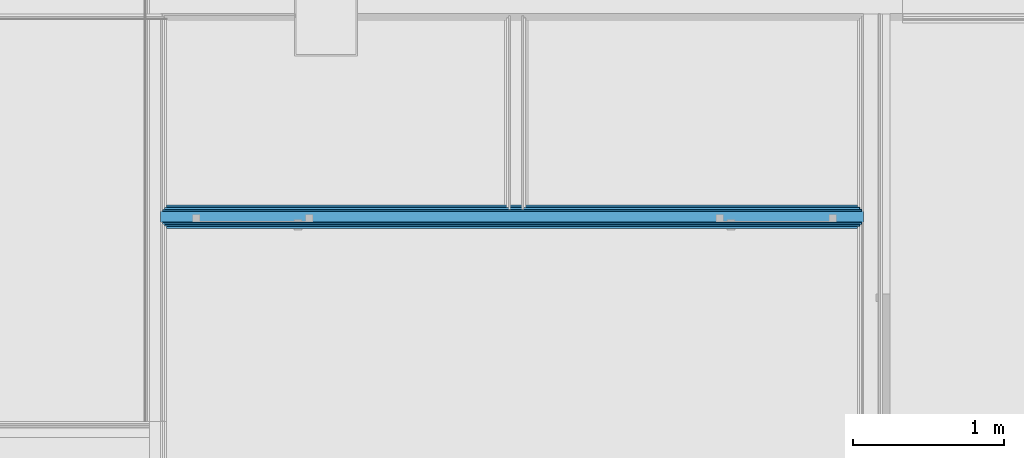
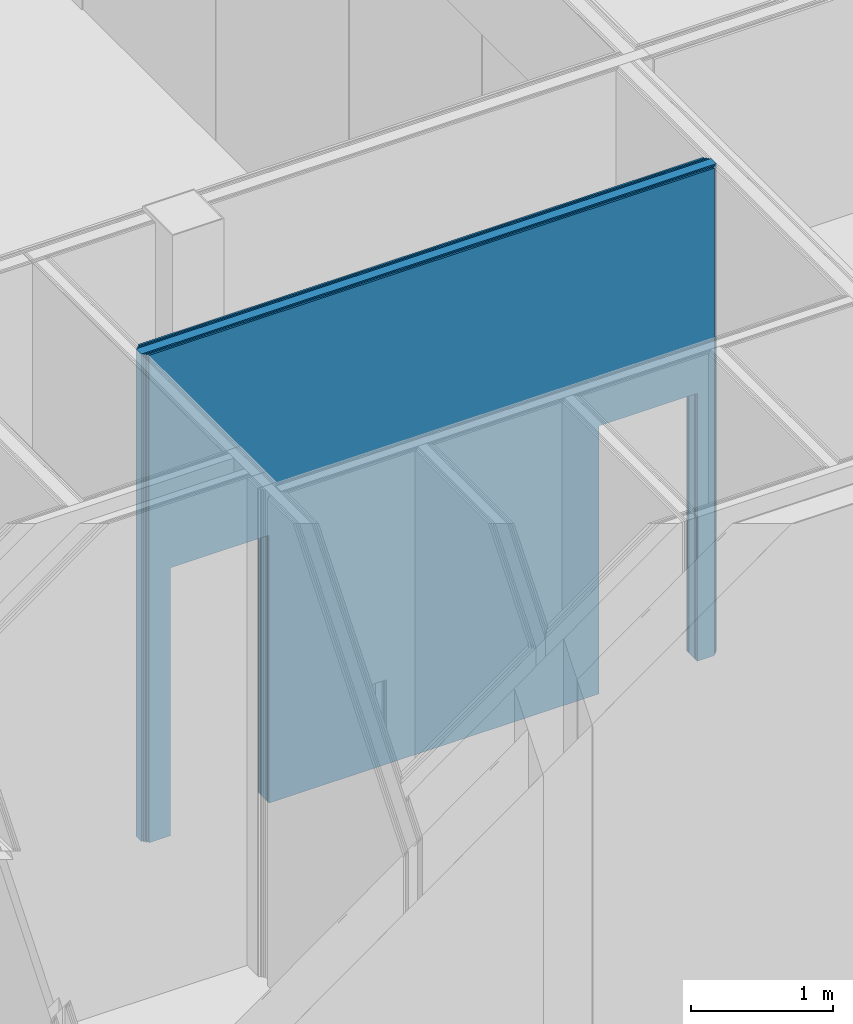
# One storey, part 121 of 260: 7 building element parts, 2 openings, 1 element without a shape of its own.
"""IFC2X3 building model written with IfcOpenShell, lengths in millimetres."""

from ifc_helpers import new_model, entity, si_unit, converted_unit, derived_unit, money_unit, direction, frame, origin_with_axes, place, context, subcontext, project, spatial, faceted_brep, material, type_object, element, aggregate, save


model = new_model("IFC2X3")

# Units and contexts
model_context = context("Model", 3, precision=0.01, world=origin_with_axes(), true_north=direction((0.0, 1.0)))
body_context = subcontext(model_context, "Body", "Model", "MODEL_VIEW")
ifc_project = project(units=[si_unit("LENGTHUNIT", "METRE", prefix="MILLI"), si_unit("AREAUNIT", "SQUARE_METRE"), si_unit("VOLUMEUNIT", "CUBIC_METRE"), converted_unit("PLANEANGLEUNIT", "DEGREE", entity("IfcPlaneAngleMeasure", 0.0174532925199), si_unit("PLANEANGLEUNIT", "RADIAN"), dimensions=[0, 0, 0, 0, 0, 0, 0]), money_unit("EUR"), converted_unit("TIMEUNIT", "Year", entity("IfcTimeMeasure", 31556926.0), si_unit("TIMEUNIT", "SECOND"), dimensions=[0, 0, 1, 0, 0, 0, 0]), si_unit("MASSUNIT", "GRAM", prefix="KILO"), si_unit("THERMODYNAMICTEMPERATUREUNIT", "DEGREE_CELSIUS"), si_unit("LUMINOUSINTENSITYUNIT", "LUMEN"), si_unit("ENERGYUNIT", "JOULE", prefix="MEGA"), derived_unit("THERMALCONDUCTANCEUNIT", [(si_unit("POWERUNIT", "WATT"), 1), (si_unit("LENGTHUNIT", "METRE"), -1), (si_unit("THERMODYNAMICTEMPERATUREUNIT", "KELVIN"), -1)]), derived_unit("SPECIFICHEATCAPACITYUNIT", [(si_unit("ENERGYUNIT", "JOULE"), 1), (si_unit("MASSUNIT", "GRAM", prefix="KILO"), -1), (si_unit("THERMODYNAMICTEMPERATUREUNIT", "KELVIN"), -1)]), derived_unit("MASSDENSITYUNIT", [(si_unit("MASSUNIT", "GRAM", prefix="KILO"), 1), (si_unit("VOLUMEUNIT", "CUBIC_METRE"), -1)])], contexts=[model_context])

# Site, building, storey
site_placement = place(None, origin_with_axes())
site = spatial("IfcSite", under=ifc_project, at=site_placement, Name="Kolde pst 67a", CompositionType="ELEMENT")
building_placement = place(site_placement, origin_with_axes())
building = spatial("IfcBuilding", under=site, at=building_placement, Name="Riigigümnaasium", CompositionType="ELEMENT")
storey_placement = place(building_placement, origin_with_axes())
storey = spatial("IfcBuildingStorey", under=building, at=storey_placement, Name="1. korrus", CompositionType="ELEMENT", Elevation=0.0)

# Wall, openings, building element parts
wall_type = type_object("IfcWallType", Name="SS-MK-7,5/1_plaaditud 155", PredefinedType="NOTDEFINED")
wall_placement = place(storey_placement, frame((73479.99953, 14900.0071245, 0.0), z_axis=(0.0, 0.0, 1.0), x_axis=(-1.0, 4.76274496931e-07, 0.0)))
wall = element("IfcWall", 1, at=wall_placement, inside=storey, type_object=wall_type, Name="Sisesein")
opening_1_placement = place(wall_placement, frame((4016.61777221, 0.0, 0.0), z_axis=(0.0, 0.0, 1.0), x_axis=(1.0, 0.0, 0.0)))
element("IfcOpeningElement", 2, at=opening_1_placement, cuts=wall, Name="Siseuks", context=body_context, shape_type="Brep", body=[
    faceted_brep([(400.0, -155.0, 2300.0), (400.0, -155.0, 0.0), (400.0, 310.0, 0.0), (400.0, 310.0, 2300.0), (-400.0, -155.0, 2300.0), (-400.0, -155.0, 0.0), (-400.0, 310.0, 0.0), (-400.0, 310.0, 2300.0)], [[[0, 1, 2, 3]], [[0, 4, 5, 1]], [[1, 5, 6, 2]], [[3, 2, 6, 7]], [[4, 0, 3, 7]], [[5, 4, 7, 6]]]),
])
opening_2_placement = place(wall_placement, frame((540.0, 0.0, 0.0), z_axis=(0.0, 0.0, 1.0), x_axis=(1.0, 0.0, 0.0)))
element("IfcOpeningElement", 3, at=opening_2_placement, cuts=wall, Name="Siseuks", context=body_context, shape_type="Brep", body=[
    faceted_brep([(-400.0, 310.0, 2300.0), (-400.0, 310.0, 0.0), (-400.0, -155.0, 0.0), (-400.0, -155.0, 2300.0), (400.0, 310.0, 2300.0), (400.0, 310.0, 0.0), (400.0, -155.0, 0.0), (400.0, -155.0, 2300.0)], [[[0, 1, 2, 3]], [[0, 4, 5, 1]], [[1, 5, 6, 2]], [[3, 2, 6, 7]], [[4, 0, 3, 7]], [[5, 4, 7, 6]]]),
])
ifc_material_1 = material(Name="_VIIMISTLUSKIHT - viimistlus vastavalt SA osale")
building_element_part_1_placement = place(wall_placement, origin_with_axes())
building_element_part_1 = element("IfcBuildingElementPart", 4, at=building_element_part_1_placement, material=ifc_material_1, Name="_VIIMISTLUSKIHT - viimistlus vastavalt SA osale", context=body_context, shape_type="Brep", body=[
    faceted_brep([(940.0, 139.999998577, 2300.0), (940.0, 140.0, 0.0), (3616.61777221, 140.0, 0.0), (3616.61777221, 139.999998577, 2300.0), (4416.61777221, 139.999998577, 2300.0), (4416.61777221, 140.0, 0.0), (4589.99998587, 140.0, 0.0), (4589.99998587, 139.999999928, 4185.0), (-6.01555427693e-06, 139.999998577, 4185.0), (-6.66784245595e-05, 140.0, 0.0), (140.0, 140.0, 0.0), (140.0, 139.999998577, 2300.0), (940.0, 155.000002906, 2300.0), (940.0, 155.0, 0.0), (3616.61777221, 155.0, 0.0), (3616.61777221, 155.000002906, 2300.0), (4416.61777221, 155.000002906, 2300.0), (4416.61777221, 155.0, 0.0), (4589.99997872, 155.0, 0.0), (4589.99997872, 155.000000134, 4185.0), (-7.38225480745e-05, 155.000002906, 4185.0), (-7.38225338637e-05, 155.0, 0.0), (140.0, 155.0, 0.0), (140.0, 155.000002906, 2300.0)], [[[0, 1, 2, 3, 4, 5, 6, 7, 8, 9, 10, 11]], [[1, 0, 12, 13]], [[1, 13, 14, 2]], [[2, 14, 15, 3]], [[3, 15, 16, 4]], [[4, 16, 17, 5]], [[17, 18, 6, 5]], [[6, 18, 19, 7]], [[7, 19, 20, 8]], [[21, 9, 8, 20]], [[22, 10, 9, 21]], [[11, 10, 22, 23]], [[0, 11, 23, 12]], [[23, 22, 21, 20, 19, 18, 17, 16, 15, 14, 13, 12]]]),
])
ifc_material_2 = material(Name="_PLAATMATERJAL - kipsplaat veekindel")
building_element_part_2_placement = place(wall_placement, origin_with_axes())
building_element_part_2 = element("IfcBuildingElementPart", 5, at=building_element_part_2_placement, material=ifc_material_2, Name="_PLAATMATERJAL - kipsplaat veekindel", context=body_context, shape_type="Brep", body=[
    faceted_brep([(940.0, 127.5, 2300.0), (940.0, 127.5, 0.0), (3616.61777221, 127.5, 0.0), (3616.61777221, 127.5, 2300.0), (4416.61777221, 127.5, 2300.0), (4416.61777221, 127.5, 0.0), (4604.99999182, 127.5, 0.0), (4604.99999182, 127.5, 4185.0), (-15.000060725, 127.5, 4185.0), (-15.000060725, 127.5, 0.0), (140.0, 127.5, 0.0), (140.0, 127.5, 2300.0), (940.0, 139.999998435, 2300.0), (940.0, 140.0, 0.0), (3616.61777221, 140.0, 0.0), (3616.61777221, 139.999998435, 2300.0), (4416.61777221, 139.999998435, 2300.0), (4416.61777221, 140.0, 0.0), (4604.99998587, 140.0, 0.0), (4604.99998587, 139.999999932, 4185.0), (0.0, 139.999998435, 4185.0), (-15.0000666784, 139.999998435, 4185.0), (-15.0000666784, 140.0, 0.0), (140.0, 140.0, 0.0), (140.0, 139.999998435, 2300.0)], [[[0, 1, 2, 3, 4, 5, 6, 7, 8, 9, 10, 11]], [[1, 0, 12, 13]], [[1, 13, 14, 2]], [[2, 14, 15, 3]], [[3, 15, 16, 4]], [[4, 16, 17, 5]], [[17, 18, 6, 5]], [[6, 18, 19, 7]], [[19, 20, 21, 8, 7]], [[8, 21, 22, 9]], [[23, 10, 9, 22]], [[11, 10, 23, 24]], [[0, 11, 24, 12]], [[24, 23, 22, 21, 20, 19, 18, 17, 16, 15, 14, 13, 12]]]),
])
building_element_part_3_placement = place(wall_placement, origin_with_axes())
building_element_part_3 = element("IfcBuildingElementPart", 6, at=building_element_part_3_placement, material=ifc_material_2, Name="_PLAATMATERJAL - kipsplaat veekindel", context=body_context, shape_type="Brep", body=[
    faceted_brep([(940.0, 114.999997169, 2300.0), (940.0, 115.0, 0.0), (3616.61777221, 115.0, 0.0), (3616.61777221, 114.999997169, 2300.0), (4416.61777221, 114.999997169, 2300.0), (4416.61777221, 115.0, 0.0), (4617.49999777, 115.0, 0.0), (4617.49999777, 114.999999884, 4185.0), (0.0, 114.999997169, 4185.0), (-27.5000547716, 114.999997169, 4185.0), (-27.5000547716, 115.0, 0.0), (140.0, 115.0, 0.0), (140.0, 114.999997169, 2300.0), (940.0, 127.5, 2300.0), (940.0, 127.5, 0.0), (3616.61777221, 127.5, 0.0), (3616.61777221, 127.5, 2300.0), (4416.61777221, 127.5, 2300.0), (4416.61777221, 127.5, 0.0), (4617.49999182, 127.5, 0.0), (4617.49999182, 127.5, 4185.0), (-27.500060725, 127.5, 4185.0), (-27.500060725, 127.5, 0.0), (140.0, 127.5, 0.0), (140.0, 127.5, 2300.0)], [[[0, 1, 2, 3, 4, 5, 6, 7, 8, 9, 10, 11, 12]], [[1, 0, 13, 14]], [[1, 14, 15, 2]], [[2, 15, 16, 3]], [[3, 16, 17, 4]], [[4, 17, 18, 5]], [[18, 19, 6, 5]], [[6, 19, 20, 7]], [[20, 21, 9, 8, 7]], [[9, 21, 22, 10]], [[23, 11, 10, 22]], [[12, 11, 23, 24]], [[0, 12, 24, 13]], [[24, 23, 22, 21, 20, 19, 18, 17, 16, 15, 14, 13]]]),
])
ifc_material_3 = material(Name="_KARKASS - metallkarkass CW 75/50, mineraalvill karkassi vahel")
building_element_part_4_placement = place(wall_placement, origin_with_axes())
building_element_part_4 = element("IfcBuildingElementPart", 7, at=building_element_part_4_placement, material=ifc_material_3, Name="_KARKASS - metallkarkass CW 75/50, mineraalvill karkassi vahel", context=body_context, shape_type="Brep", body=[
    faceted_brep([(940.0, 39.999999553, 2300.0), (940.0, 40.0, 0.0), (3616.61777221, 40.0, 0.0), (3616.61777221, 39.999999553, 2300.0), (4416.61777221, 39.999999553, 2300.0), (4416.61777221, 40.0, 0.0), (4630.00003349, 40.0, 0.0), (4630.00003349, 39.9999999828, 4185.0), (0.0, 39.999999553, 4185.0), (-40.000019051, 39.999999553, 4185.0), (-40.000019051, 40.0, 0.0), (140.0, 40.0, 0.0), (140.0, 39.999999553, 2300.0), (940.0, 114.999997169, 2300.0), (940.0, 115.0, 0.0), (3616.61777221, 115.0, 0.0), (3616.61777221, 114.999997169, 2300.0), (4416.61777221, 114.999997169, 2300.0), (4416.61777221, 115.0, 0.0), (4629.99999777, 115.0, 0.0), (4629.99999777, 114.999999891, 4185.0), (0.0, 114.999997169, 4185.0), (-40.0000547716, 114.999997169, 4185.0), (-40.0000547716, 115.0, 0.0), (140.0, 115.0, 0.0), (140.0, 114.999997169, 2300.0)], [[[0, 1, 2, 3, 4, 5, 6, 7, 8, 9, 10, 11, 12]], [[1, 0, 13, 14]], [[1, 14, 15, 2]], [[2, 15, 16, 3]], [[3, 16, 17, 4]], [[4, 17, 18, 5]], [[18, 19, 6, 5]], [[6, 19, 20, 7]], [[21, 22, 9, 8, 7, 20]], [[9, 22, 23, 10]], [[24, 11, 10, 23]], [[12, 11, 24, 25]], [[0, 12, 25, 13]], [[25, 24, 23, 22, 21, 20, 19, 18, 17, 16, 15, 14, 13]]]),
])
building_element_part_5_placement = place(wall_placement, origin_with_axes())
building_element_part_5 = element("IfcBuildingElementPart", 8, at=building_element_part_5_placement, material=ifc_material_2, Name="_PLAATMATERJAL - kipsplaat veekindel", context=body_context, shape_type="Brep", body=[
    faceted_brep([(940.0, 27.5, 2300.0), (940.0, 27.5, 0.0), (2230.00055248, 27.5, 0.0), (2230.00055248, 27.5, 3000.0), (2305.00055248, 27.5, 3000.0), (2305.00055248, 27.5, 0.0), (3616.61777221, 27.5, 0.0), (3616.61777221, 27.5, 2300.0), (4416.61777221, 27.5, 2300.0), (4416.61777221, 27.5, 0.0), (4617.50003945, 27.5, 0.0), (4617.50003945, 27.5, 4185.0), (-27.5000130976, 27.5, 4185.0), (-27.5000130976, 27.5, 0.0), (140.0, 27.5, 0.0), (140.0, 27.5, 2300.0), (940.0, 39.999999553, 2300.0), (940.0, 40.0, 0.0), (2230.00055248, 40.0, 0.0), (2230.00055248, 39.999999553, 3000.0), (2305.00055248, 39.999999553, 3000.0), (2305.00055248, 40.0, 0.0), (3616.61777221, 40.0, 0.0), (3616.61777221, 39.999999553, 2300.0), (4416.61777221, 39.999999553, 2300.0), (4416.61777221, 40.0, 0.0), (4617.50003349, 40.0, 0.0), (4617.50003349, 39.9999999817, 4185.0), (0.0, 39.999999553, 4185.0), (-27.500019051, 39.999999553, 4185.0), (-27.500019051, 40.0, 0.0), (140.0, 40.0, 0.0), (140.0, 39.999999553, 2300.0)], [[[0, 1, 2, 3, 4, 5, 6, 7, 8, 9, 10, 11, 12, 13, 14, 15]], [[1, 0, 16, 17]], [[1, 17, 18, 2]], [[2, 18, 19, 3]], [[3, 19, 20, 4]], [[4, 20, 21, 5]], [[6, 5, 21, 22]], [[6, 22, 23, 7]], [[7, 23, 24, 8]], [[8, 24, 25, 9]], [[25, 26, 10, 9]], [[10, 26, 27, 11]], [[27, 28, 29, 12, 11]], [[12, 29, 30, 13]], [[31, 14, 13, 30]], [[15, 14, 31, 32]], [[0, 15, 32, 16]], [[32, 31, 30, 29, 28, 27, 26, 25, 24, 23, 22, 21, 20, 19, 18, 17, 16]]]),
])
building_element_part_6_placement = place(wall_placement, origin_with_axes())
building_element_part_6 = element("IfcBuildingElementPart", 9, at=building_element_part_6_placement, material=ifc_material_2, Name="_PLAATMATERJAL - kipsplaat veekindel", context=body_context, shape_type="Brep", body=[
    faceted_brep([(940.0, 14.9999982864, 2300.0), (940.0, 15.0, 0.0), (2217.50055248, 15.0, 0.0), (2217.50055248, 14.9999982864, 3000.0), (2317.50055248, 14.9999982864, 3000.0), (2317.50055248, 15.0, 0.0), (3616.61777221, 15.0, 0.0), (3616.61777221, 14.9999982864, 2300.0), (4416.61777221, 14.9999982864, 2300.0), (4416.61777221, 15.0, 0.0), (4605.0000454, 15.0, 0.0), (4605.0000454, 14.9999999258, 4185.0), (0.0, 14.9999982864, 4185.0), (-15.0000071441, 14.9999982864, 4185.0), (-15.0000071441, 15.0, 0.0), (140.0, 15.0, 0.0), (140.0, 14.9999982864, 2300.0), (940.0, 27.5, 2300.0), (940.0, 27.5, 0.0), (2217.50055248, 27.5, 0.0), (2217.50055248, 27.5, 3000.0), (2317.50055248, 27.5, 3000.0), (2317.50055248, 27.5, 0.0), (3616.61777221, 27.5, 0.0), (3616.61777221, 27.5, 2300.0), (4416.61777221, 27.5, 2300.0), (4416.61777221, 27.5, 0.0), (4605.00003945, 27.5, 0.0), (4605.00003945, 27.5, 4185.0), (-15.0000130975, 27.5, 4185.0), (-15.0000130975, 27.5, 0.0), (140.0, 27.5, 0.0), (140.0, 27.5, 2300.0)], [[[0, 1, 2, 3, 4, 5, 6, 7, 8, 9, 10, 11, 12, 13, 14, 15, 16]], [[1, 0, 17, 18]], [[1, 18, 19, 2]], [[2, 19, 20, 3]], [[20, 21, 4, 3]], [[4, 21, 22, 5]], [[6, 5, 22, 23]], [[6, 23, 24, 7]], [[7, 24, 25, 8]], [[8, 25, 26, 9]], [[26, 27, 10, 9]], [[10, 27, 28, 11]], [[28, 29, 13, 12, 11]], [[13, 29, 30, 14]], [[31, 15, 14, 30]], [[16, 15, 31, 32]], [[0, 16, 32, 17]], [[32, 31, 30, 29, 28, 27, 26, 25, 24, 23, 22, 21, 20, 19, 18, 17]]]),
])
building_element_part_7_placement = place(wall_placement, origin_with_axes())
building_element_part_7 = element("IfcBuildingElementPart", 10, at=building_element_part_7_placement, material=ifc_material_1, Name="_VIIMISTLUSKIHT - viimistlus vastavalt SA osale", context=body_context, shape_type="Brep", body=[
    faceted_brep([(940.0, 0.0, 2300.0), (940.0, 0.0, 0.0), (2205.00055248, 0.0, 0.0), (2205.00055248, 0.0, 3000.0), (2330.00055248, 0.0, 3000.0), (2330.00055248, 0.0, 0.0), (3616.61777221, 0.0, 0.0), (3616.61777221, 0.0, 2300.0), (4416.61777221, 0.0, 2300.0), (4416.61777221, 0.0, 0.0), (4590.00005254, 0.0, 0.0), (4590.00005254, 0.0, 4185.0), (0.0, 0.0, 4185.0), (0.0, 0.0, 0.0), (140.0, 0.0, 0.0), (140.0, 0.0, 2300.0), (940.0, 14.999998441, 2300.0), (940.0, 15.0, 0.0), (2205.00055248, 15.0, 0.0), (2205.00055248, 14.9999982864, 3000.0), (2330.00055248, 14.9999982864, 3000.0), (2330.00055248, 15.0, 0.0), (3616.61777221, 15.0, 0.0), (3616.61777221, 14.999998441, 2300.0), (4416.61777221, 14.999998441, 2300.0), (4416.61777221, 15.0, 0.0), (4590.0000454, 15.0, 0.0), (4590.0000454, 14.999999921, 4185.0), (-6.44504893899e-07, 14.999998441, 4185.0), (-7.14410930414e-06, 15.0, 0.0), (140.0, 15.0, 0.0), (140.0, 14.999998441, 2300.0)], [[[0, 1, 2, 3, 4, 5, 6, 7, 8, 9, 10, 11, 12, 13, 14, 15]], [[1, 0, 16, 17]], [[1, 17, 18, 2]], [[2, 18, 19, 3]], [[19, 20, 4, 3]], [[4, 20, 21, 5]], [[6, 5, 21, 22]], [[6, 22, 23, 7]], [[7, 23, 24, 8]], [[8, 24, 25, 9]], [[25, 26, 10, 9]], [[10, 26, 27, 11]], [[11, 27, 28, 12]], [[29, 13, 12, 28]], [[30, 14, 13, 29]], [[15, 14, 30, 31]], [[0, 15, 31, 16]], [[31, 30, 29, 28, 27, 26, 25, 24, 23, 22, 21, 20, 19, 18, 17, 16]]]),
])
aggregate(wall, [building_element_part_1, building_element_part_2, building_element_part_3, building_element_part_4, building_element_part_5, building_element_part_6, building_element_part_7])

save(model, "model.ifc")
